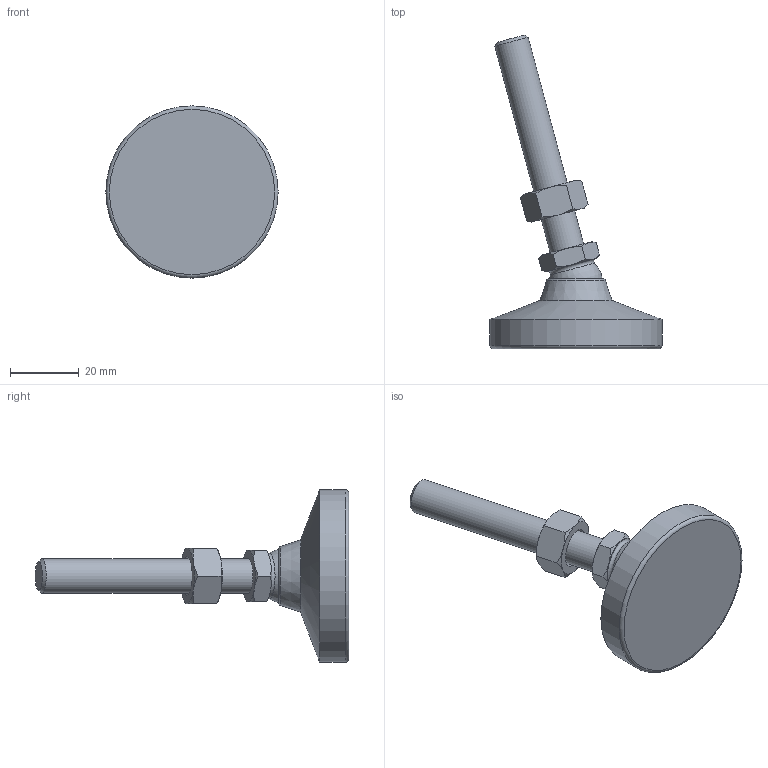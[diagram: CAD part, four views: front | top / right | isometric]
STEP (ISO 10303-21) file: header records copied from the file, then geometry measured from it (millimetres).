
FILE_DESCRIPTION( ( 'STEP AP214' ), ' ' );
FILE_NAME( 'O:/ganter_2015/teil_2/2_5/gn343_2/gn343_2_ks/Levelling foot with threaded stud GN 343.2-50-M10-63-KS-(15).stp', '2015-10-26T09:10:42', ( '' ), ( '' ), ' ', 'PARTsolutions', ' ' );
FILE_SCHEMA( ( 'AUTOMOTIVE_DESIGN { 1 0 10303 214 1 1 1 1 }' ) );
Length unit declared in the file: millimetre
Products named in the file (4): Levelling foot with threaded stud GN 343.2-50-M10-63-KS-(15); _Levelling foot with threaded stud GN 343.2-50-M10-63-KS-(15)_foot; _Gelenkfuss mit Schraube GN 343.2-50-M10-63-KS-(15)_screw; _GLevelling foot with threaded stud GN 343.2-50-M10-63-KS-(15)_nut
Assembly tree (3 placements, depth 2):
  Levelling foot with threaded stud GN 343.2-50-M10-63-KS-(15)
    _Levelling foot with threaded stud GN 343.2-50-M10-63-KS-(15)_foot
    _Gelenkfuss mit Schraube GN 343.2-50-M10-63-KS-(15)_screw
    _GLevelling foot with threaded stud GN 343.2-50-M10-63-KS-(15)_nut
Bounding box: 50 x 91.07 x 50 mm (x, y, z)
Volume: 32104.2 mm3; surface area: 9854.6 mm2
Topology: 3 solids, 3 shells, 56 faces, 117 edges, 68 vertices
Faces by surface type: cone 29, plane 19, torus 3, cylinder 3, sphere 2
Full cylindrical faces by diameter (mm): 8.376 x1, 10 x1, 50 x1
Entity records: 2066 total; most frequent: CARTESIAN_POINT 498, DIRECTION 212, ORIENTED_EDGE 200, AXIS2_PLACEMENT_3D 100, EDGE_CURVE 100, EDGE_LOOP 72, VERTEX_POINT 66, FACE_OUTER_BOUND 62
